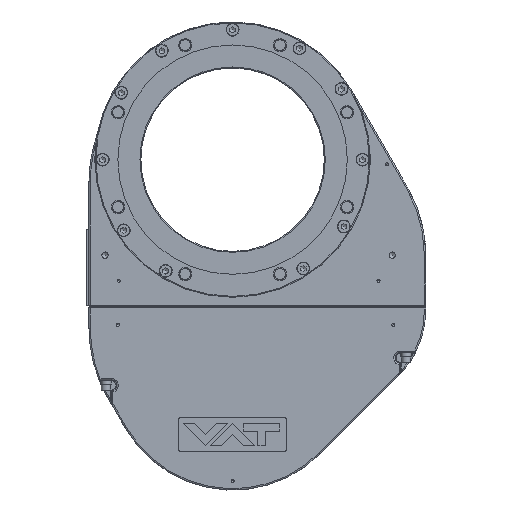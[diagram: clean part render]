
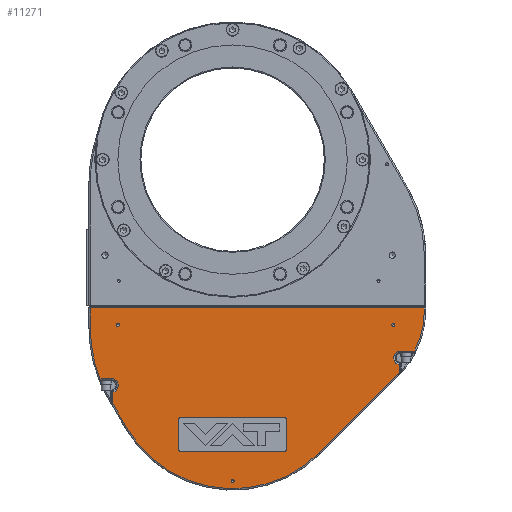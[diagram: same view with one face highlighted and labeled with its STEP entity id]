
A CAD part, top view. The second image highlights one B-rep face of the part: STEP entity #11271.
In plain terms, the highlighted planar face has unit normal (0, 0, 1).
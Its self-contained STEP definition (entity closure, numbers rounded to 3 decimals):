
#11271=ADVANCED_FACE('',(#14815,#14816,#14817,#14818),#13318,.T.);
#13318=PLANE('',#45768);
#14815=FACE_BOUND('',#16816,.T.);
#14816=FACE_BOUND('',#16817,.T.);
#14817=FACE_BOUND('',#16818,.T.);
#14818=FACE_BOUND('',#16819,.T.);
#16816=EDGE_LOOP('',(#22105,#22106,#22107,#22108,#22109,#22110,#22111,#22112,
#22113,#22114,#22115,#22116,#22117,#22118,#22119));
#16817=EDGE_LOOP('',(#22120));
#16818=EDGE_LOOP('',(#22121));
#16819=EDGE_LOOP('',(#22122));
#20058=CIRCLE('',#45759,133.5);
#20059=CIRCLE('',#45760,98.5);
#20060=CIRCLE('',#45761,7.5);
#20061=CIRCLE('',#45762,98.5);
#20062=CIRCLE('',#45763,148.5);
#20063=CIRCLE('',#45764,7.5);
#20064=CIRCLE('',#45765,1.65);
#20065=CIRCLE('',#45766,1.65);
#20066=CIRCLE('',#45767,1.65);
#22105=ORIENTED_EDGE('',*,*,#35438,.T.);
#22106=ORIENTED_EDGE('',*,*,#35439,.T.);
#22107=ORIENTED_EDGE('',*,*,#35440,.T.);
#22108=ORIENTED_EDGE('',*,*,#35441,.T.);
#22109=ORIENTED_EDGE('',*,*,#35442,.T.);
#22110=ORIENTED_EDGE('',*,*,#35443,.T.);
#22111=ORIENTED_EDGE('',*,*,#35444,.T.);
#22112=ORIENTED_EDGE('',*,*,#35445,.T.);
#22113=ORIENTED_EDGE('',*,*,#35446,.T.);
#22114=ORIENTED_EDGE('',*,*,#35447,.T.);
#22115=ORIENTED_EDGE('',*,*,#35448,.T.);
#22116=ORIENTED_EDGE('',*,*,#35449,.T.);
#22117=ORIENTED_EDGE('',*,*,#35450,.T.);
#22118=ORIENTED_EDGE('',*,*,#35451,.T.);
#22119=ORIENTED_EDGE('',*,*,#35452,.T.);
#22120=ORIENTED_EDGE('',*,*,#35453,.F.);
#22121=ORIENTED_EDGE('',*,*,#35454,.F.);
#22122=ORIENTED_EDGE('',*,*,#35455,.F.);
#31691=VERTEX_POINT('',#60487);
#31692=VERTEX_POINT('',#60488);
#31693=VERTEX_POINT('',#60490);
#31694=VERTEX_POINT('',#60492);
#31695=VERTEX_POINT('',#60494);
#31696=VERTEX_POINT('',#60496);
#31697=VERTEX_POINT('',#60498);
#31698=VERTEX_POINT('',#60500);
#31699=VERTEX_POINT('',#60502);
#31700=VERTEX_POINT('',#60504);
#31701=VERTEX_POINT('',#60506);
#31702=VERTEX_POINT('',#60508);
#31703=VERTEX_POINT('',#60510);
#31704=VERTEX_POINT('',#60512);
#31705=VERTEX_POINT('',#60514);
#31706=VERTEX_POINT('',#60517);
#31707=VERTEX_POINT('',#60519);
#31708=VERTEX_POINT('',#60521);
#35438=EDGE_CURVE('',#31691,#31692,#40146,.T.);
#35439=EDGE_CURVE('',#31692,#31693,#40147,.T.);
#35440=EDGE_CURVE('',#31693,#31694,#20058,.T.);
#35441=EDGE_CURVE('',#31694,#31695,#40148,.T.);
#35442=EDGE_CURVE('',#31695,#31696,#20059,.T.);
#35443=EDGE_CURVE('',#31696,#31697,#40149,.T.);
#35444=EDGE_CURVE('',#31697,#31698,#20060,.T.);
#35445=EDGE_CURVE('',#31698,#31699,#40150,.T.);
#35446=EDGE_CURVE('',#31699,#31700,#20061,.T.);
#35447=EDGE_CURVE('',#31700,#31701,#40151,.T.);
#35448=EDGE_CURVE('',#31701,#31702,#40152,.T.);
#35449=EDGE_CURVE('',#31702,#31703,#40153,.T.);
#35450=EDGE_CURVE('',#31703,#31704,#20062,.T.);
#35451=EDGE_CURVE('',#31704,#31705,#40154,.T.);
#35452=EDGE_CURVE('',#31705,#31691,#20063,.T.);
#35453=EDGE_CURVE('',#31706,#31706,#20064,.T.);
#35454=EDGE_CURVE('',#31707,#31707,#20065,.T.);
#35455=EDGE_CURVE('',#31708,#31708,#20066,.T.);
#40146=LINE('',#60486,#42706);
#40147=LINE('',#60489,#42707);
#40148=LINE('',#60493,#42708);
#40149=LINE('',#60497,#42709);
#40150=LINE('',#60501,#42710);
#40151=LINE('',#60505,#42711);
#40152=LINE('',#60507,#42712);
#40153=LINE('',#60509,#42713);
#40154=LINE('',#60513,#42714);
#42706=VECTOR('',#50165,1.);
#42707=VECTOR('',#50166,1.);
#42708=VECTOR('',#50169,1.);
#42709=VECTOR('',#50172,1.);
#42710=VECTOR('',#50175,1.);
#42711=VECTOR('',#50178,1.);
#42712=VECTOR('',#50179,1.);
#42713=VECTOR('',#50180,1.);
#42714=VECTOR('',#50183,1.);
#45759=AXIS2_PLACEMENT_3D('',#60491,#50167,#50168);
#45760=AXIS2_PLACEMENT_3D('',#60495,#50170,#50171);
#45761=AXIS2_PLACEMENT_3D('',#60499,#50173,#50174);
#45762=AXIS2_PLACEMENT_3D('',#60503,#50176,#50177);
#45763=AXIS2_PLACEMENT_3D('',#60511,#50181,#50182);
#45764=AXIS2_PLACEMENT_3D('',#60515,#50184,#50185);
#45765=AXIS2_PLACEMENT_3D('',#60516,#50186,#50187);
#45766=AXIS2_PLACEMENT_3D('',#60518,#50188,#50189);
#45767=AXIS2_PLACEMENT_3D('',#60520,#50190,#50191);
#45768=AXIS2_PLACEMENT_3D('',#60522,#50192,#50193);
#50165=DIRECTION('',(0.,-1.,0.));
#50166=DIRECTION('',(0.5,-0.866,0.));
#50167=DIRECTION('',(0.,0.,1.));
#50168=DIRECTION('',(1.,0.,0.));
#50169=DIRECTION('',(0.707,0.707,0.));
#50170=DIRECTION('',(0.,0.,1.));
#50171=DIRECTION('',(1.,0.,0.));
#50172=DIRECTION('',(0.,1.,0.));
#50173=DIRECTION('',(0.,0.,-1.));
#50174=DIRECTION('',(1.,0.,0.));
#50175=DIRECTION('',(1.,0.,0.));
#50176=DIRECTION('',(0.,0.,1.));
#50177=DIRECTION('',(1.,0.,0.));
#50178=DIRECTION('',(0.,1.,0.));
#50179=DIRECTION('',(-1.,0.,0.));
#50180=DIRECTION('',(0.,-1.,0.));
#50181=DIRECTION('',(0.,0.,1.));
#50182=DIRECTION('',(1.,0.,0.));
#50183=DIRECTION('',(1.,0.,0.));
#50184=DIRECTION('',(0.,0.,-1.));
#50185=DIRECTION('',(1.,0.,0.));
#50186=DIRECTION('',(0.,0.,1.));
#50187=DIRECTION('',(1.,0.,0.));
#50188=DIRECTION('',(0.,0.,1.));
#50189=DIRECTION('',(1.,0.,0.));
#50190=DIRECTION('',(0.,0.,1.));
#50191=DIRECTION('',(1.,0.,0.));
#50192=DIRECTION('',(0.,0.,1.));
#50193=DIRECTION('',(1.,0.,0.));
#60486=CARTESIAN_POINT('',(-130.5,-105.967,71.));
#60487=CARTESIAN_POINT('',(-130.5,-93.348,71.));
#60488=CARTESIAN_POINT('',(-130.5,-105.967,71.));
#60489=CARTESIAN_POINT('',(-115.614,-131.75,71.));
#60490=CARTESIAN_POINT('',(-115.614,-131.75,71.));
#60491=CARTESIAN_POINT('',(0.,-65.,71.));
#60492=CARTESIAN_POINT('',(94.399,-159.399,71.));
#60493=CARTESIAN_POINT('',(180.15,-73.647,71.));
#60494=CARTESIAN_POINT('',(180.15,-73.647,71.));
#60495=CARTESIAN_POINT('',(110.5,-3.997,71.));
#60496=CARTESIAN_POINT('',(181.5,-72.271,71.));
#60497=CARTESIAN_POINT('',(181.5,-23.742,71.));
#60498=CARTESIAN_POINT('',(181.5,-63.348,71.));
#60499=CARTESIAN_POINT('',(183.,-56.,71.));
#60500=CARTESIAN_POINT('',(183.,-48.5,71.));
#60501=CARTESIAN_POINT('',(-6.5,-48.5,71.));
#60502=CARTESIAN_POINT('',(198.374,-48.5,71.));
#60503=CARTESIAN_POINT('',(110.5,-3.997,71.));
#60504=CARTESIAN_POINT('',(209.,-3.997,71.));
#60505=CARTESIAN_POINT('',(209.,0.,71.));
#60506=CARTESIAN_POINT('',(209.,-1.5,71.));
#60507=CARTESIAN_POINT('',(-156.5,-1.5,71.));
#60508=CARTESIAN_POINT('',(-155.,-1.5,71.));
#60509=CARTESIAN_POINT('',(-155.,-23.742,71.));
#60510=CARTESIAN_POINT('',(-155.,-23.742,71.));
#60511=CARTESIAN_POINT('',(-6.5,-23.742,71.));
#60512=CARTESIAN_POINT('',(-144.535,-78.5,71.));
#60513=CARTESIAN_POINT('',(-132.,-78.5,71.));
#60514=CARTESIAN_POINT('',(-132.,-78.5,71.));
#60515=CARTESIAN_POINT('',(-132.,-86.,71.));
#60516=CARTESIAN_POINT('',(0.,-190.,71.));
#60517=CARTESIAN_POINT('',(1.65,-190.,71.));
#60518=CARTESIAN_POINT('',(-125.,-20.,71.));
#60519=CARTESIAN_POINT('',(-123.35,-20.,71.));
#60520=CARTESIAN_POINT('',(175.,-20.,71.));
#60521=CARTESIAN_POINT('',(176.65,-20.,71.));
#60522=CARTESIAN_POINT('',(-6.5,-23.742,71.));
